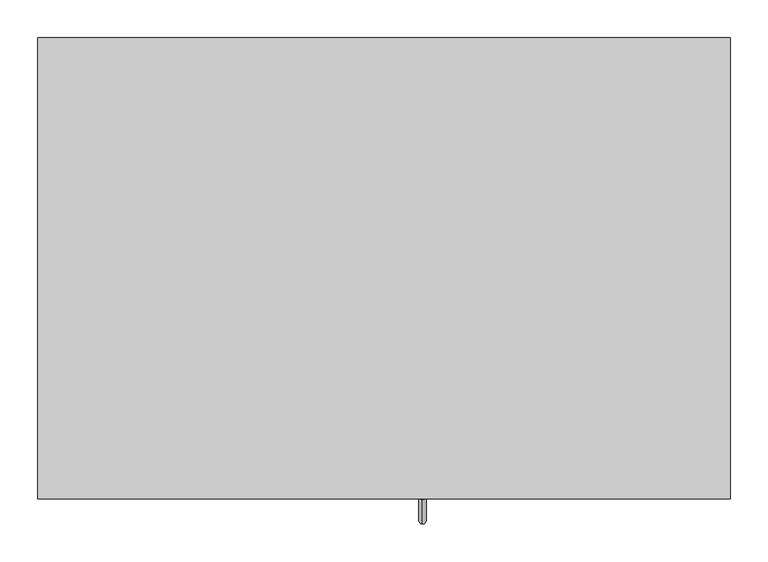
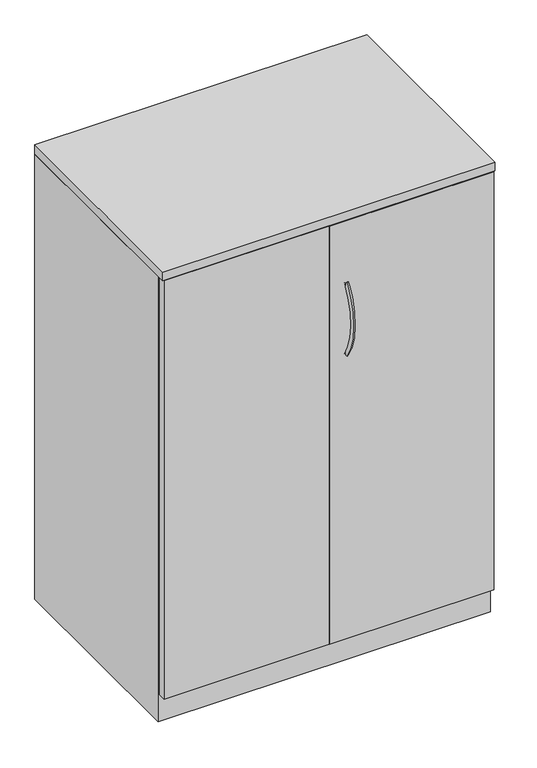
"""IFC4 building model written with IfcOpenShell, lengths in millimetres: furniture geometry, Steelcase - Universal Storage - Cabinet - Wardrobe - 52H - Proud Steel : Side to Side Coat Rod - 24D x 36W."""

import ifcopenshell
import ifcopenshell.guid

model = None  # the IFC model being written
_history = None  # IfcOwnerHistory: only IFC2X3 demands one
_inside = {}  # id of a spatial element -> (the spatial element, [elements in it])
_under = {}  # id of a project, library or spatial element -> (it, [spatial elements below it])
_declared = {}  # id of a project -> (the project, [libraries it declares])
_typed = {}  # id of a type object -> (the type object, [elements of that type])
_made_of = {}  # id of a material, layer set ... -> (it, [elements and type objects made of it])


def new_model(schema):
    """Start an empty IFC model of exactly this schema.

    Asked for "IFC4X3", IfcOpenShell would pick the latest addendum, in which some entities
    have other attributes; the version numbers below select the first issue.
    IFC2X3 requires an IfcOwnerHistory on every rooted entity: one is made here for all.
    """
    global model, _history
    if schema == "IFC4X3":
        model = ifcopenshell.file(schema_version=(4, 3, 0, 0))
    else:
        model = ifcopenshell.file(schema=schema)
    _inside.clear()
    _under.clear()
    _declared.clear()
    _typed.clear()
    _made_of.clear()
    _history = None
    if model.schema == "IFC2X3":
        org = make("IfcOrganization", Name="unknown")
        user = make(
            "IfcPersonAndOrganization",
            ThePerson=make("IfcPerson", FamilyName="unknown"),
            TheOrganization=org,
        )
        app = make(
            "IfcApplication",
            ApplicationDeveloper=org,
            Version="unknown",
            ApplicationFullName="unknown",
            ApplicationIdentifier="unknown",
        )
        _history = make(
            "IfcOwnerHistory",
            OwningUser=user,
            OwningApplication=app,
            ChangeAction="ADDED",
            CreationDate=0,
        )
    return model


def make(cls, **values):
    """One entity of the class cls with the attributes given. An attribute that is None is left unset."""
    return model.create_entity(
        cls, **{name: value for name, value in values.items() if value is not None}
    )


def rooted(cls, **values):
    """An entity with a GlobalId (a new one), such as an element, a storey or a relation."""
    return make(cls, GlobalId=ifcopenshell.guid.new(), OwnerHistory=_history, **values)


def si_unit(unit_type, name, prefix=None):
    """IfcSIUnit, for example si_unit("LENGTHUNIT", "METRE", prefix="MILLI")."""
    return make("IfcSIUnit", UnitType=unit_type, Prefix=prefix, Name=name)


def assignment(units):
    """IfcUnitAssignment: the units of a project."""
    return None if units is None else make("IfcUnitAssignment", Units=units)


def point(xyz):
    """IfcCartesianPoint."""
    return None if xyz is None else make("IfcCartesianPoint", Coordinates=xyz)


def direction(xyz):
    """IfcDirection."""
    return None if xyz is None else make("IfcDirection", DirectionRatios=xyz)


def frame(location, z_axis=None, x_axis=None):
    """IfcAxis2Placement3D, a coordinate frame: its origin and axes. An axis left out is left unset."""
    return make(
        "IfcAxis2Placement3D",
        Location=point(location),
        Axis=direction(z_axis),
        RefDirection=direction(x_axis),
    )


def origin():
    """The frame at (0, 0, 0) with its axes left unset."""
    return frame((0.0, 0.0, 0.0))


def place(relative_to, where):
    """IfcLocalPlacement: puts the frame where relative to a parent placement (None: the world)."""
    return make(
        "IfcLocalPlacement", PlacementRelTo=relative_to, RelativePlacement=where
    )


def context(
    kind, dimensions, precision=None, world=None, true_north=None, identifier=None
):
    """IfcGeometricRepresentationContext, for example the 3D "Model" context."""
    return make(
        "IfcGeometricRepresentationContext",
        ContextIdentifier=identifier,
        ContextType=kind,
        CoordinateSpaceDimension=dimensions,
        Precision=precision,
        WorldCoordinateSystem=world,
        TrueNorth=true_north,
    )


def project(units=None, contexts=None):
    """IfcProject with its units and contexts."""
    return rooted(
        "IfcProject",
        Name="project",
        RepresentationContexts=contexts,
        UnitsInContext=assignment(units),
    )


def spatial(cls, under=None, at=None, **own):
    """A site, building, storey or space (cls), placed at a placement, below another one or the project."""
    s = rooted(cls, ObjectPlacement=at, **own)
    if under is not None:
        _under.setdefault(under.id(), (under, []))[1].append(s)
    return s


def polyline(points):
    """IfcPolyline through the points."""
    return make("IfcPolyline", Points=[point(p) for p in points])


def circle_curve(where, radius):
    """IfcCircle in the frame where."""
    return make("IfcCircle", Position=where, Radius=radius)


def ellipse_curve(where, semi_axis1, semi_axis2):
    """IfcEllipse in the frame where."""
    return make(
        "IfcEllipse", Position=where, SemiAxis1=semi_axis1, SemiAxis2=semi_axis2
    )


def trimmed(basis, trim1, trim2, sense, master):
    """IfcTrimmedCurve: the piece of a basis curve between two trims."""
    return make(
        "IfcTrimmedCurve",
        BasisCurve=basis,
        Trim1=trim1,
        Trim2=trim2,
        SenseAgreement=sense,
        MasterRepresentation=master,
    )


def outline(outer, holes=None, kind="AREA"):
    """IfcArbitraryClosedProfileDef: a profile drawn as a closed curve; with holes, ...WithVoids."""
    if holes is None:
        return make("IfcArbitraryClosedProfileDef", ProfileType=kind, OuterCurve=outer)
    return make(
        "IfcArbitraryProfileDefWithVoids",
        ProfileType=kind,
        OuterCurve=outer,
        InnerCurves=holes,
    )


def extrude(swept, where, along, depth):
    """IfcExtrudedAreaSolid: the profile swept, set in the frame where, extruded along a direction by depth."""
    return make(
        "IfcExtrudedAreaSolid",
        SweptArea=swept,
        Position=where,
        ExtrudedDirection=direction(along),
        Depth=depth,
    )


def faces_of(points, faces, orient=None, outer=None):
    """IfcFace entities. A face is a list of loops; a loop is a list of indices into points, from 0.

    orient and outer hold one flag for each loop. By default every Orientation is true, the
    first loop of a face is its IfcFaceOuterBound and the others are IfcFaceBound.
    """
    made = []
    for i, loops in enumerate(faces):
        bounds = []
        for j, loop in enumerate(loops):
            is_outer = j == 0 if outer is None else outer[i][j]
            bounds.append(
                make(
                    "IfcFaceOuterBound" if is_outer else "IfcFaceBound",
                    Bound=make("IfcPolyLoop", Polygon=[points[k] for k in loop]),
                    Orientation=True if orient is None else orient[i][j],
                )
            )
        made.append(make("IfcFace", Bounds=bounds))
    return made


def faceted_brep(points, faces, orient=None, outer=None, voids=None):
    """IfcFacetedBrep: a solid bounded by flat faces; with voids (closed shells), ...WithVoids."""
    shared = [point(p) for p in points]
    hull = make("IfcClosedShell", CfsFaces=faces_of(shared, faces, orient, outer))
    if voids is None:
        return make("IfcFacetedBrep", Outer=hull)
    return make(
        "IfcFacetedBrepWithVoids",
        Outer=hull,
        Voids=[
            make(cls, CfsFaces=faces_of(shared, fs, o, b)) for cls, fs, o, b in voids
        ],
    )


def shape(context_of_items, identifier, shape_type, items):
    """IfcShapeRepresentation: the items that make up one representation, for example the "Body"."""
    return make(
        "IfcShapeRepresentation",
        ContextOfItems=context_of_items,
        RepresentationIdentifier=identifier,
        RepresentationType=shape_type,
        Items=items,
    )


def source(mapping_origin, context_of_items, identifier, shape_type, items):
    """IfcRepresentationMap: a shape defined once, which mapped items show again and again."""
    return make(
        "IfcRepresentationMap",
        MappingOrigin=mapping_origin,
        MappedRepresentation=shape(context_of_items, identifier, shape_type, items),
    )


def transform(
    local_origin,
    x_axis=None,
    y_axis=None,
    z_axis=None,
    scale=None,
    scale2=None,
    scale3=None,
    uniform=True,
):
    """IfcCartesianTransformationOperator3D, or its non-uniform kind. x_axis, y_axis, z_axis: its Axis1, 2, 3."""
    if uniform:
        return make(
            "IfcCartesianTransformationOperator3D",
            Axis1=direction(x_axis),
            Axis2=direction(y_axis),
            LocalOrigin=point(local_origin),
            Scale=scale,
            Axis3=direction(z_axis),
        )
    return make(
        "IfcCartesianTransformationOperator3DnonUniform",
        Axis1=direction(x_axis),
        Axis2=direction(y_axis),
        LocalOrigin=point(local_origin),
        Scale=scale,
        Axis3=direction(z_axis),
        Scale2=scale2,
        Scale3=scale3,
    )


def mapped(mapping_source, mapping_target):
    """IfcMappedItem: shows the shape of a source again, moved by a transform."""
    return make(
        "IfcMappedItem", MappingSource=mapping_source, MappingTarget=mapping_target
    )


def made_of(thing, what):
    """Note that an element or type object is made of a material, layer set ...; save() writes the relation."""
    if what is not None:
        _made_of.setdefault(what.id(), (what, []))[1].append(thing)
    return thing


def element(
    cls,
    number,
    at=None,
    inside=None,
    cuts=None,
    type_object=None,
    material=None,
    context=None,
    identifier="Body",
    shape_type=None,
    held_by="IfcProductDefinitionShape",
    body=None,
    shapes=None,
    **own,
):
    """One element of the class cls, such as IfcWall. Its Tag is "e" and its number.

    at: its placement. inside: the storey or other place that contains it. cuts: it is an
    opening in that element (IfcRelVoidsElement). A single representation is given by context,
    identifier, shape_type and body (its items); several are given by shapes. held_by: the class
    of the entity that holds the representations. save() writes the other relations.
    """
    e = rooted(cls, Tag="e%d" % number, ObjectPlacement=at, **own)
    if body is not None:
        shapes = [shape(context, identifier, shape_type, body)]
    if shapes is not None:
        e.Representation = make(held_by, Representations=shapes)
    if inside is not None:
        _inside.setdefault(inside.id(), (inside, []))[1].append(e)
    if cuts is not None:
        rooted(
            "IfcRelVoidsElement", RelatingBuildingElement=cuts, RelatedOpeningElement=e
        )
    if type_object is not None:
        _typed.setdefault(type_object.id(), (type_object, []))[1].append(e)
    return made_of(e, material)


def aggregate(whole, parts):
    """IfcRelAggregates: a whole, such as a stair, and the parts it consists of."""
    return rooted("IfcRelAggregates", RelatingObject=whole, RelatedObjects=parts)


def save(model, path):
    """Write the relations noted so far, then the file.

    IfcRelAggregates (storeys below a building ...), IfcRelContainedInSpatialStructure (elements
    in a storey), IfcRelDefinesByType, IfcRelAssociatesMaterial and IfcRelDeclares: one each for
    every whole, place, type object, material and project.
    """
    for whole, parts in _under.values():
        aggregate(whole, parts)
    for where, things in _inside.values():
        rooted(
            "IfcRelContainedInSpatialStructure",
            RelatedElements=things,
            RelatingStructure=where,
        )
    for kind, things in _typed.values():
        rooted("IfcRelDefinesByType", RelatedObjects=things, RelatingType=kind)
    for what, things in _made_of.values():
        rooted("IfcRelAssociatesMaterial", RelatedObjects=things, RelatingMaterial=what)
    for by, libraries in _declared.values():
        rooted("IfcRelDeclares", RelatingContext=by, RelatedDefinitions=libraries)
    model.write(path)


def plane_surface(at):
    """IfcPlane: the flat surface through the origin of the frame at, square to its z axis."""
    return make("IfcPlane", Position=at)


def revolved_surface(curve, axis_point, axis_direction):
    """IfcSurfaceOfRevolution: the curve turned about the line through axis_point along axis_direction."""
    return make(
        "IfcSurfaceOfRevolution",
        SweptCurve=make("IfcArbitraryOpenProfileDef", ProfileType="CURVE", Curve=curve),
        AxisPosition=make("IfcAxis1Placement", Location=point(axis_point), Axis=direction(axis_direction)),
    )


def advanced_brep(points, edges, surfaces, faces):
    """IfcAdvancedBrep: a solid bounded by faces that lie on surfaces and meet in shared edges.

    An edge is (start, end): straight between two places in points (the first is 0);
    or (start, end, curve); or (start, end, curve, False) where it runs against its curve.
    A face is (place in surfaces, loops), or (place, loops, False) where it looks against
    its surface's normal. A loop lists edges by number (the first is 1), with a minus sign
    where the edge is run from its end to its start. The first loop is the outer one.
    """
    corners = [point(p) for p in points]
    vertices = [make("IfcVertexPoint", VertexGeometry=c) for c in corners]
    made = []
    for start, end, *more in edges:
        made.append(
            make(
                "IfcEdgeCurve",
                EdgeStart=vertices[start],
                EdgeEnd=vertices[end],
                EdgeGeometry=more[0] if more else make("IfcPolyline", Points=[corners[start], corners[end]]),
                SameSense=more[1] if len(more) > 1 else True,
            )
        )
    hull = []
    for where, loops, *sense in faces:
        bounds = []
        for j, loop in enumerate(loops):
            ring = [make("IfcOrientedEdge", EdgeElement=made[abs(k) - 1], Orientation=k > 0) for k in loop]
            bounds.append(
                make(
                    "IfcFaceOuterBound" if j == 0 else "IfcFaceBound",
                    Bound=make("IfcEdgeLoop", EdgeList=ring),
                    Orientation=True,
                )
            )
        hull.append(make("IfcAdvancedFace", Bounds=bounds, FaceSurface=surfaces[where], SameSense=sense[0] if sense else True))
    return make("IfcAdvancedBrep", Outer=make("IfcClosedShell", CfsFaces=hull))


def furniture_9025bdc2(model_context):
    return source(origin(), model_context, "Body", "SolidModel", [
        extrude(outline(polyline([(914.4, 130.048), (914.4, -479.552), (0.0, -479.552), (0.0, 130.048), (914.4, 130.048)])), frame((0.0, 0.0, 1295.3999516), z_axis=(0.0, 0.0, 1.0), x_axis=(1.0, 0.0, 0.0)), (0.0, 0.0, 1.0), 25.4),
        extrude(outline(polyline([(457.2, -479.552), (3.1725353, -479.552), (3.1725353, -457.3261219), (457.2, -457.3261219), (457.2, -479.552)])), frame((0.0, 0.0, 77.724), z_axis=(0.0, 0.0, 1.0), x_axis=(1.0, 0.0, 0.0)), (0.0, 0.0, 1.0), 1216.152),
        extrude(outline(polyline([(911.2225413, -479.552), (458.7239992, -479.552), (458.7239992, -457.3261219), (911.2225413, -457.3261219), (911.2225413, -479.552)])), frame((0.0, 0.0, 77.724), z_axis=(0.0, 0.0, 1.0), x_axis=(1.0, 0.0, 0.0)), (0.0, 0.0, 1.0), 1216.152),
        advanced_brep(
        [(507.9682496, -480.0678374, 1114.4756859), (507.9682496, -471.5857696, 1108.8828219), (507.9682496, -477.4964738, 894.418042), (507.9682496, -469.1474089, 900.2075769)],
        [
            (0, 1, circle_curve(frame((507.9682496, -475.8268035, 1111.6792539), z_axis=(0.0, 0.5504787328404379, 0.8348491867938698), x_axis=(0.0, 0.8348491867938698, -0.5504787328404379)), 5.08)),
            (1, 0, circle_curve(frame((507.9682496, -475.8268035, 1111.6792539), z_axis=(0.0, 0.5504787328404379, 0.8348491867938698), x_axis=(0.0, 0.8348491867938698, -0.5504787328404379)), 5.08)),
            (2, 3, circle_curve(frame((507.9682496, -473.3219413, 897.3128094), z_axis=(0.0, 0.5698361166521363, -0.8217583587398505), x_axis=(0.0, 0.8217583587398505, 0.5698361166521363)), 5.08)),
            (3, 2, circle_curve(frame((507.9682496, -473.3219413, 897.3128094), z_axis=(0.0, 0.5698361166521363, -0.8217583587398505), x_axis=(0.0, 0.8217583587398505, 0.5698361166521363)), 5.08)),
            (3, 1, circle_curve(frame((507.9682496, -316.0827352, 1006.3479992), z_axis=(-1.0, 0.0, 0.0), x_axis=(0.0, -0.83484918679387, 0.5504787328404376)), 186.2648211)),
            (0, 2, circle_curve(frame((507.9682496, -316.0827352, 1006.3479992), z_axis=(1.0, 0.0, 0.0), x_axis=(0.0, -0.83484918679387, 0.5504787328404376)), 196.4248211)),
        ],
        [
            plane_surface(frame((508.7619996, -475.1785718, 1111.2518261), z_axis=(0.0, 0.5504787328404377, 0.83484918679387), x_axis=(1.0, 0.0, 0.0))),
            plane_surface(frame((508.7619996, -472.6838742, 897.7552676), z_axis=(0.0, 0.5698361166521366, -0.8217583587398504), x_axis=(1.0, 0.0, 0.0))),
            revolved_surface(trimmed(ellipse_curve(frame((507.9682496, -475.8268035, 1111.6792539), z_axis=(0.0, 0.5504787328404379, 0.8348491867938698), x_axis=(0.0, 0.8348491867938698, -0.5504787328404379)), 5.08, 5.08), [point((507.9682496, -480.0678374, 1114.4756859))], [point((507.9682496, -471.5857696, 1108.8828219))], True, "CARTESIAN"), (508.7619996, -316.0827352, 1006.3479992), (1.0, 0.0, 0.0)),
            revolved_surface(trimmed(ellipse_curve(frame((507.9682496, -475.8268035, 1111.6792539), z_axis=(0.0, 0.5504787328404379, 0.8348491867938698), x_axis=(0.0, 0.8348491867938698, -0.5504787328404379)), 5.08, 5.08), [point((507.9682496, -471.5857696, 1108.8828219))], [point((507.9682496, -480.0678374, 1114.4756859))], True, "CARTESIAN"), (508.7619996, -316.0827352, 1006.3479992), (1.0, 0.0, 0.0)),
        ],
        [
            (0, [[1, 2]]),
            (1, [[3, 4]]),
            (2, [[5, -1, 6, -4]]),
            (3, [[-6, -2, -5, -3]]),
        ],
    ),
        faceted_brep([(25.4000008, -457.3261219, 76.2), (889.0000242, -457.3261219, 76.2), (889.0000242, 104.6479992, 76.2), (25.4000008, 104.6479992, 76.2), (914.4, 130.048, 0.0), (914.4, -457.3261219, 0.0), (0.0, -457.3261219, 0.0), (0.0, 130.048, 0.0), (0.0, 130.048, 1293.876), (914.4, 130.048, 1293.876), (0.0, -457.3261219, 1293.876), (914.4, -457.3261219, 1293.876), (889.0000242, -457.3261219, 1293.876), (25.4000008, -457.3261219, 1293.876), (889.0000242, 104.6479992, 1293.876), (25.4000008, 104.6479992, 1293.876)], [[[0, 1, 2, 3]], [[4, 5, 6, 7]], [[4, 7, 8, 9]], [[8, 7, 6, 10]], [[10, 6, 5, 11, 12, 1, 0, 13]], [[11, 5, 4, 9]], [[14, 12, 11, 9, 8, 10, 13, 15]], [[12, 14, 2, 1]], [[15, 13, 0, 3]], [[14, 15, 3, 2]]]),
    ])


if __name__ == "__main__":
    model = new_model("IFC4")
    model_context = context("Model", 3, world=origin())
    ifc_project = project(units=[si_unit("LENGTHUNIT", "METRE", prefix="MILLI")], contexts=[model_context])
    site = spatial("IfcSite", under=ifc_project)
    building = spatial("IfcBuilding", under=site)
    placement = place(None, origin())
    furniture_shape = furniture_9025bdc2(model_context)
    element("IfcFurniture", 1, ObjectType="Steelcase - Universal Storage - Cabinet - Wardrobe - 52H - Proud Steel : Side to Side Coat Rod - 24D x 36W", at=placement, inside=building, context=model_context, shape_type="MappedRepresentation", body=[
        mapped(furniture_shape, transform((0.0, 0.0, 0.0), x_axis=(1.0, 0.0, 0.0), y_axis=(0.0, 1.0, 0.0), z_axis=(0.0, 0.0, 1.0))),
    ])
    save(model, "model.ifc")
